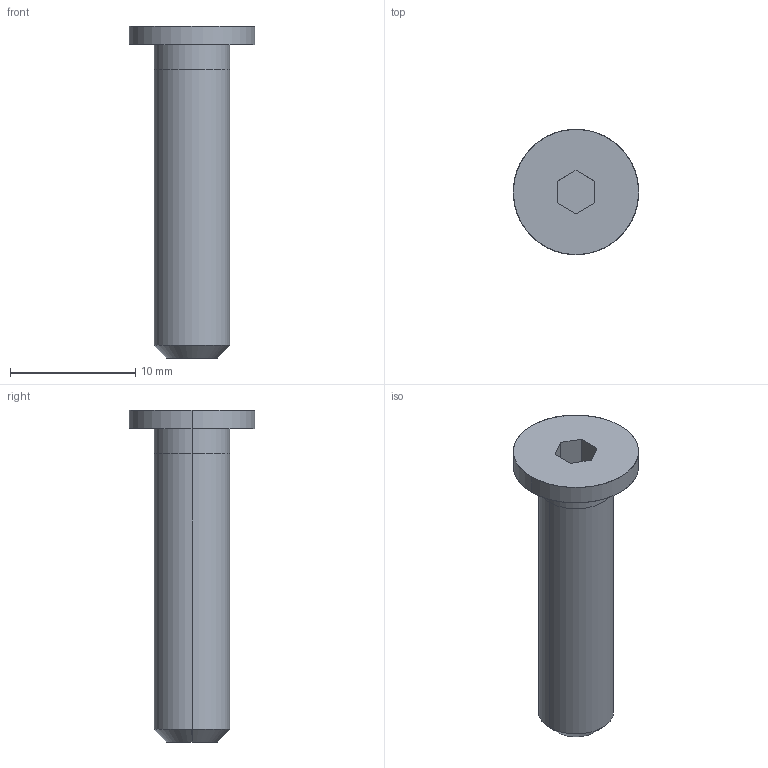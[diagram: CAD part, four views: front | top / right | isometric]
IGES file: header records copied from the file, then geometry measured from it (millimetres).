
Global section: file name: E:\UnigraphicsGraphicData\MISUMI_PRESS-PARTS\IGES\3d_cbss6-25_03505_r00.igs; native system: NX V5.0; preprocessor: UGS NX IGES V5.0; author: MISUMI; date: 20110105.160203; units: millimetre
Bounding box: 10 x 10 x 26.5 mm (x, y, z)
Surface area: 705.1 mm2 (no closed solid volume)
Topology: 0 solids, 0 shells, 18 faces, 100 edges, 100 vertices
Faces by surface type: bspline 18
